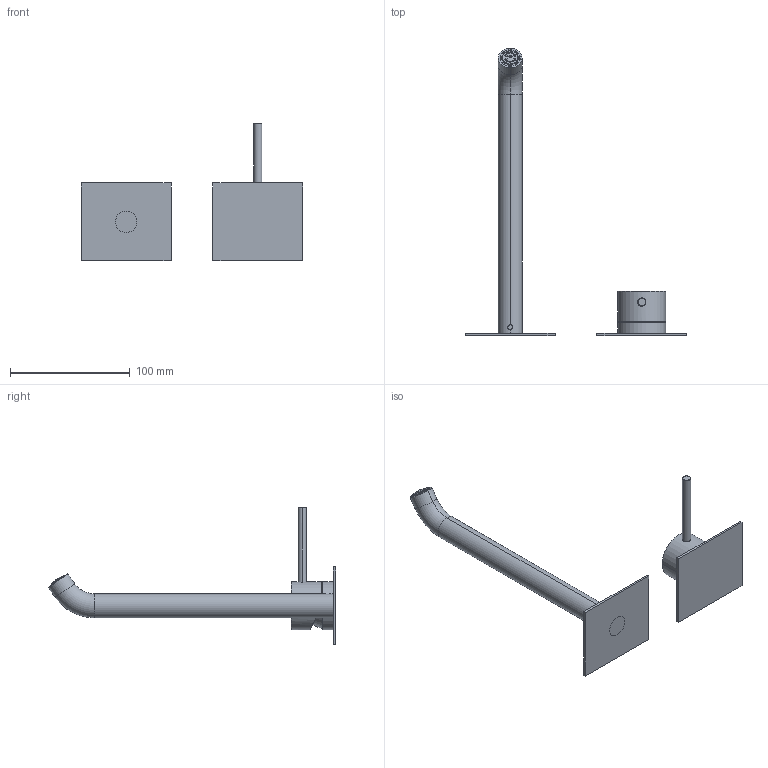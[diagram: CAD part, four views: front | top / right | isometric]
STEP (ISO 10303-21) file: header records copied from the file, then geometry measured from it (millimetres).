
FILE_DESCRIPTION((''),'2;1');
FILE_NAME('69547A21_SW0001','2025-11-19T10:42:14',('carloff'),(''),'CREO PARAMETRIC BY PTC INC, 2022014','CREO PARAMETRIC BY PTC INC, 2022014','');
FILE_SCHEMA(('CONFIG_CONTROL_DESIGN'));
Products named in the file (1): 69547A21_SW0001
Bounding box: 185 x 240.19 x 114.9 mm (x, y, z)
Volume: 79521.8 mm3; surface area: 61174.1 mm2
Topology: 3 solids, 3 shells, 1690 faces, 5011 edges, 3332 vertices
Faces by surface type: plane 1342, torus 124, cylinder 113, bspline 79, cone 23, sphere 6, extrusion 3
Entity records: 74903 total; most frequent: CARTESIAN_POINT 33449, ORIENTED_EDGE 10010, DIRECTION 6434, EDGE_CURVE 5005, VERTEX_POINT 3332, B_SPLINE_CURVE_WITH_KNOTS 2392, AXIS2_PLACEMENT_3D 2207, VECTOR 2020
